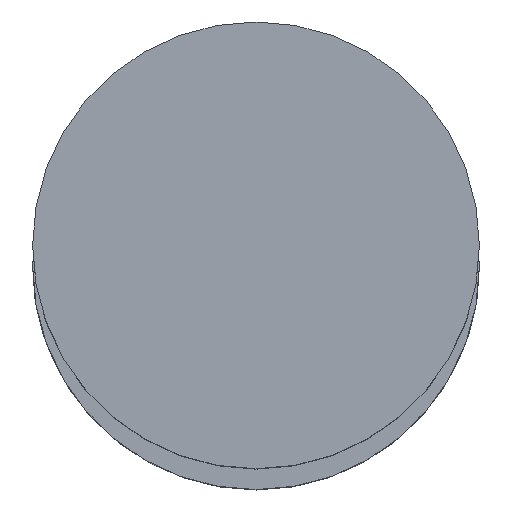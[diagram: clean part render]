
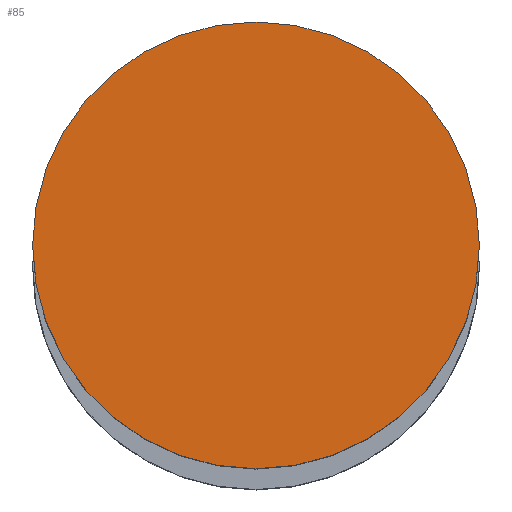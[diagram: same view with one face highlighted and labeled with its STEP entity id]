
A CAD part, top view. The second image highlights one B-rep face of the part: STEP entity #85.
In plain terms, the highlighted planar face has unit normal (0, 0, 1).
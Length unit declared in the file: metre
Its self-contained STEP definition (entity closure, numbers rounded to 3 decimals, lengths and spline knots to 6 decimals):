
#85=ADVANCED_FACE('56:4857',(#165),#166,.F.);
#165=FACE_OUTER_BOUND('',#244,.T.);
#166=PLANE('',#245);
#244=EDGE_LOOP('',(#390,#391));
#245=AXIS2_PLACEMENT_3D('',#392,#393,#394);
#390=ORIENTED_EDGE('',*,*,#433,.F.);
#391=ORIENTED_EDGE('',*,*,#478,.F.);
#392=CARTESIAN_POINT('',(-0.000092,0.000095,3.564));
#393=DIRECTION('',(0.0,0.0,-1.0));
#394=DIRECTION('',(1.0,0.0,0.0));
#433=EDGE_CURVE('27:1418',#505,#501,#507,.T.);
#478=EDGE_CURVE('',#501,#505,#572,.T.);
#501=VERTEX_POINT('',#607);
#505=VERTEX_POINT('',#612);
#507=CIRCLE('',#615,0.0155);
#572=CIRCLE('',#694,0.0155);
#607=CARTESIAN_POINT('',(0.015408,0.000095,3.564));
#612=CARTESIAN_POINT('',(-0.015592,0.000095,3.564));
#615=AXIS2_PLACEMENT_3D('',#736,#737,#738);
#694=AXIS2_PLACEMENT_3D('',#801,#802,#803);
#736=CARTESIAN_POINT('',(-0.000092,0.000095,3.564));
#737=DIRECTION('',(0.0,0.0,-1.0));
#738=DIRECTION('',(1.0,0.0,0.0));
#801=CARTESIAN_POINT('',(-0.000092,0.000095,3.564));
#802=DIRECTION('',(0.0,0.0,-1.0));
#803=DIRECTION('',(1.0,0.0,0.0));
